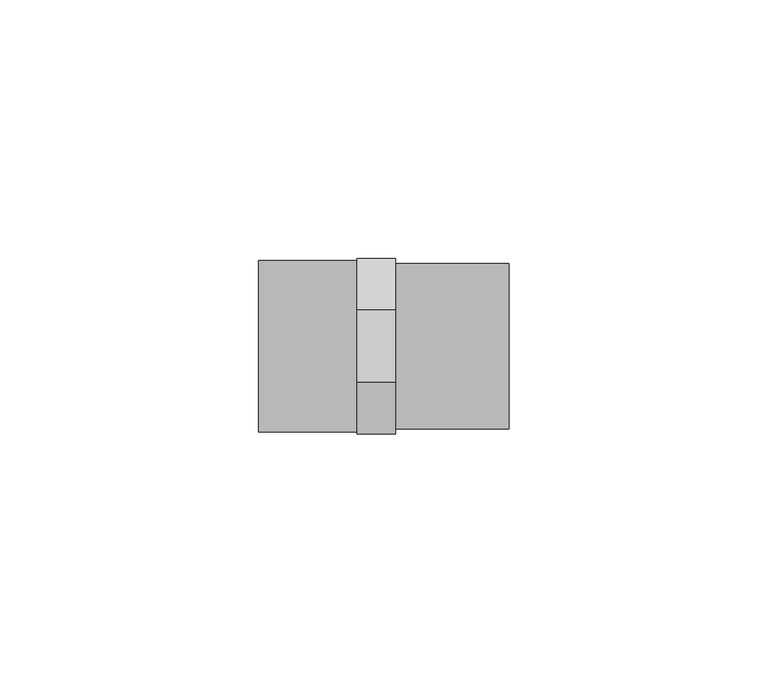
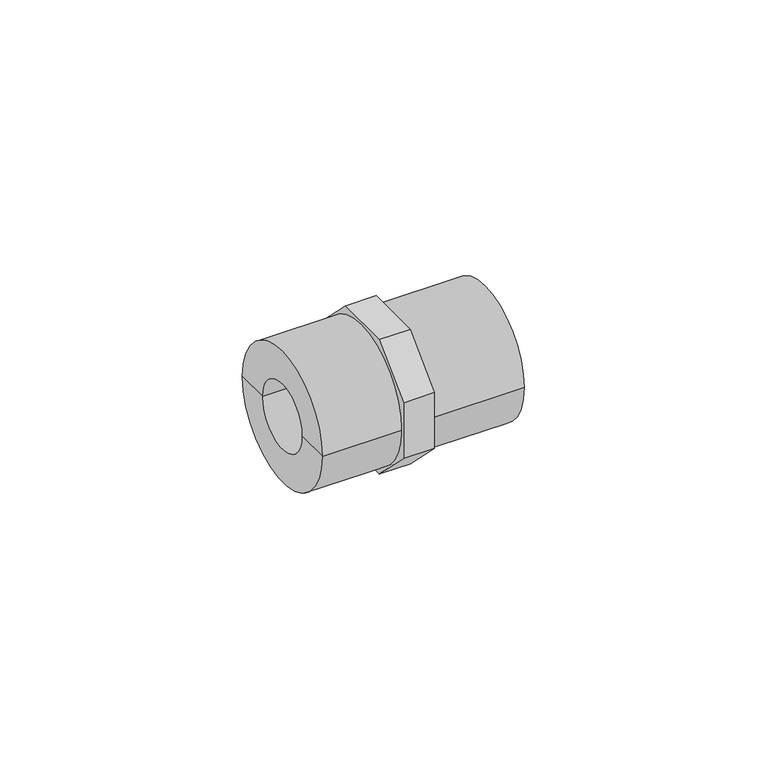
"""IFC4 building model written with IfcOpenShell, lengths in millimetres: pipe fitting geometry, Durapipe_PipeFitting_PVC_MaleThreadedAdaptors : 32 x 25 x G1."""

from ifc_helpers import new_model, si_unit, point, frame, origin, origin_2d, place, context, project, spatial, polyline, circle_curve, trimmed, segment, composite_curve, outline, extrude, source, transform, mapped, element, save
from ifc_brep_helpers import plane_surface, cylinder_surface, revolved_surface, advanced_brep


def pipe_fitting_e3af6aa8(model_context):
    return source(origin(), model_context, "Body", "SolidModel", [
        extrude(outline(polyline([(17.0, 7.0416306), (17.0, -7.0416306), (7.0416306, -17.0), (-7.0416306, -17.0), (-17.0, -7.0416306), (-17.0, 7.0416306), (-7.0416306, 17.0), (7.0416306, 17.0), (17.0, 7.0416306)]), holes=[composite_curve([segment(trimmed(circle_curve(origin_2d(), 8.25), [point((8.25, 0.0))], [point((-8.25, 0.0))], True, "CARTESIAN"), True, "CONTINUOUS"), segment(trimmed(circle_curve(origin_2d(), 8.25), [point((-8.25, 0.0))], [point((8.25, 0.0))], True, "CARTESIAN"), True, "CONTINUOUS")], self_intersect=False)]), frame((-7.4, 0.0, 0.0), z_axis=(1.0, 0.0, 0.0), x_axis=(0.0, 1.0, 0.0)), (0.0, 0.0, 1.0), 7.4),
        advanced_brep(
        [(0.0, -16.0, 0.0), (0.0, 16.0, 0.0), (22.0, 16.0, 0.0), (22.0, -16.0, 0.0), (22.0, 12.5, 0.0), (22.0, -12.5, 0.0), (0.0, 0.0, 0.0), (3.0, 12.5, 0.0), (3.0, -12.5, 0.0), (3.0, 0.0, 0.0)],
        [
            (0, 1, circle_curve(frame((0.0, 0.0, 0.0), z_axis=(1.0, 0.0, 0.0), x_axis=(0.0, 1.0, 0.0)), 16.0)),
            (1, 2),
            (2, 3, circle_curve(frame((22.0, 0.0, 0.0), z_axis=(-1.0, 0.0, 0.0), x_axis=(0.0, 1.0, 0.0)), 16.0)),
            (3, 0),
            (1, 0, circle_curve(frame((0.0, 0.0, 0.0), z_axis=(1.0, 0.0, 0.0), x_axis=(0.0, 1.0, 0.0)), 16.0)),
            (3, 2, circle_curve(frame((22.0, 0.0, 0.0), z_axis=(-1.0, 0.0, 0.0), x_axis=(0.0, 1.0, 0.0)), 16.0)),
            (2, 4),
            (4, 5, circle_curve(frame((22.0, 0.0, 0.0), z_axis=(-1.0, 0.0, 0.0), x_axis=(0.0, 1.0, 0.0)), 12.5)),
            (5, 3),
            (5, 4, circle_curve(frame((22.0, 0.0, 0.0), z_axis=(-1.0, 0.0, 0.0), x_axis=(0.0, 1.0, 0.0)), 12.5)),
            (0, 6),
            (6, 1),
            (7, 8, circle_curve(frame((3.0, 0.0, 0.0), z_axis=(-1.0, 0.0, 0.0), x_axis=(0.0, 1.0, 0.0)), 12.5)),
            (8, 5),
            (4, 7),
            (8, 7, circle_curve(frame((3.0, 0.0, 0.0), z_axis=(-1.0, 0.0, 0.0), x_axis=(0.0, 1.0, 0.0)), 12.5)),
            (7, 9),
            (9, 8),
        ],
        [
            cylinder_surface(frame((423.4572068, 0.0, 0.0), z_axis=(-1.0, 0.0, 0.0), x_axis=(0.0, 1.0, 0.0)), 16.0),
            plane_surface(frame((22.0, 0.0, 0.0), z_axis=(1.0, 0.0, 0.0), x_axis=(0.0, 1.0, 0.0))),
            plane_surface(frame((0.0, 0.0, 0.0), z_axis=(-1.0, 0.0, 0.0), x_axis=(0.0, 1.0, 0.0))),
            revolved_surface(polyline([(3.0, 12.5, 0.0), (22.0, 12.5, 0.0)]), (35.5575137, 0.0, 0.0), (-1.0, 0.0, 0.0)),
            plane_surface(frame((3.0, 0.0, 0.0), z_axis=(1.0, 0.0, 0.0), x_axis=(0.0, 1.0, 0.0))),
        ],
        [
            (0, [[1, 2, 3, 4]]),
            (0, [[-2, 5, -4, 6]]),
            (1, [[-3, 7, 8, 9]]),
            (1, [[-6, -9, 10, -7]]),
            (2, [[-1, 11, 12]]),
            (2, [[-5, -12, -11]]),
            (3, [[13, 14, -8, 15]]),
            (3, [[16, -15, -10, -14]]),
            (4, [[-13, 17, 18]]),
            (4, [[-16, -18, -17]]),
        ],
    ),
        advanced_brep(
        [(-7.4, -8.25, 0.0), (-7.4, 8.25, 0.0), (-26.5, 8.25, 0.0), (-26.5, -8.25, 0.0), (-7.4, -16.6, 0.0), (-7.4, 16.6, 0.0), (-26.5, -16.6, 0.0), (-26.5, 16.6, 0.0)],
        [
            (0, 1, circle_curve(frame((-7.4, 0.0, 0.0), z_axis=(1.0, 0.0, 0.0), x_axis=(0.0, 1.0, 0.0)), 8.25)),
            (1, 2),
            (2, 3, circle_curve(frame((-26.5, 0.0, 0.0), z_axis=(-1.0, 0.0, 0.0), x_axis=(0.0, 1.0, 0.0)), 8.25)),
            (3, 0),
            (1, 0, circle_curve(frame((-7.4, 0.0, 0.0), z_axis=(1.0, 0.0, 0.0), x_axis=(0.0, 1.0, 0.0)), 8.25)),
            (3, 2, circle_curve(frame((-26.5, 0.0, 0.0), z_axis=(-1.0, 0.0, 0.0), x_axis=(0.0, 1.0, 0.0)), 8.25)),
            (4, 5, circle_curve(frame((-7.4, 0.0, 0.0), z_axis=(1.0, 0.0, 0.0), x_axis=(0.0, 1.0, 0.0)), 16.6)),
            (5, 1),
            (0, 4),
            (5, 4, circle_curve(frame((-7.4, 0.0, 0.0), z_axis=(1.0, 0.0, 0.0), x_axis=(0.0, 1.0, 0.0)), 16.6)),
            (6, 7, circle_curve(frame((-26.5, 0.0, 0.0), z_axis=(1.0, 0.0, 0.0), x_axis=(0.0, 1.0, 0.0)), 16.6)),
            (7, 5),
            (4, 6),
            (7, 6, circle_curve(frame((-26.5, 0.0, 0.0), z_axis=(1.0, 0.0, 0.0), x_axis=(0.0, 1.0, 0.0)), 16.6)),
            (2, 7),
            (6, 3),
        ],
        [
            revolved_surface(polyline([(-26.5, 8.25, 0.0), (-7.399999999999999, 8.25, 0.0)]), (-41.5, 0.0, 0.0), (-1.0, 0.0, 0.0)),
            plane_surface(frame((-7.4, 0.0, 0.0), z_axis=(1.0, 0.0, 0.0), x_axis=(0.0, 1.0, 0.0))),
            cylinder_surface(frame((-41.5, 0.0, 0.0), z_axis=(-1.0, 0.0, 0.0), x_axis=(0.0, 1.0, 0.0)), 16.6),
            plane_surface(frame((-26.5, 0.0, 0.0), z_axis=(-1.0, 0.0, 0.0), x_axis=(0.0, 1.0, 0.0))),
        ],
        [
            (0, [[1, 2, 3, 4]]),
            (0, [[5, -4, 6, -2]]),
            (1, [[7, 8, -1, 9]]),
            (1, [[10, -9, -5, -8]]),
            (2, [[11, 12, -7, 13]]),
            (2, [[14, -13, -10, -12]]),
            (3, [[-3, 15, -11, 16]]),
            (3, [[-6, -16, -14, -15]]),
        ],
    ),
    ])


if __name__ == "__main__":
    model = new_model("IFC4")
    model_context = context("Model", 3, world=origin())
    ifc_project = project(units=[si_unit("LENGTHUNIT", "METRE", prefix="MILLI")], contexts=[model_context])
    site = spatial("IfcSite", under=ifc_project)
    building = spatial("IfcBuilding", under=site)
    placement = place(None, origin())
    pipe_fitting_shape = pipe_fitting_e3af6aa8(model_context)
    element("IfcPipeFitting", 1, ObjectType="Durapipe_PipeFitting_PVC_MaleThreadedAdaptors : 32 x 25 x G1", at=placement, inside=building, context=model_context, shape_type="MappedRepresentation", body=[
        mapped(pipe_fitting_shape, transform((0.0, 0.0, 0.0), x_axis=(1.0, 0.0, 0.0), y_axis=(0.0, 1.0, 0.0), z_axis=(0.0, 0.0, 1.0))),
    ])
    save(model, "model.ifc")
